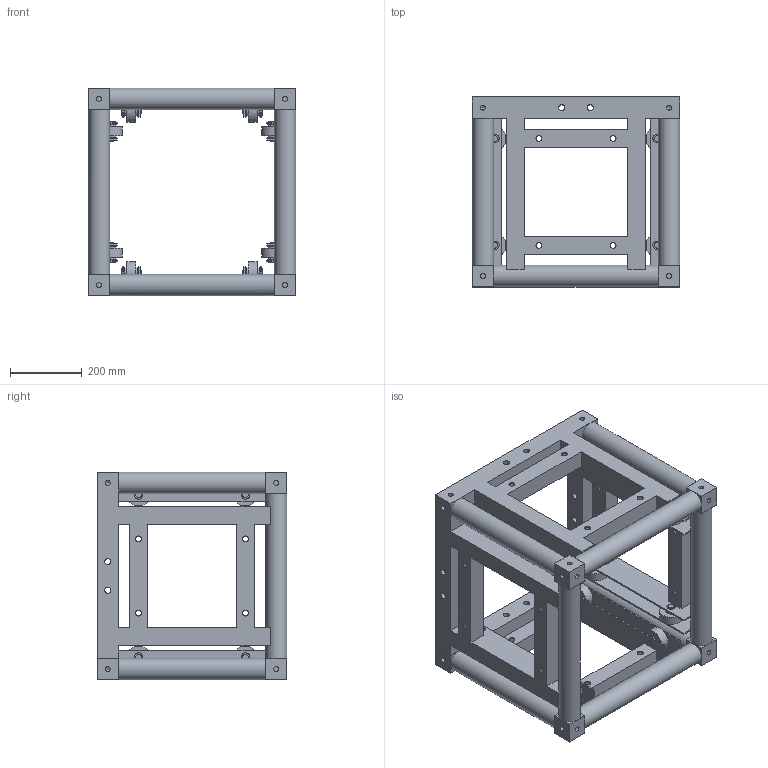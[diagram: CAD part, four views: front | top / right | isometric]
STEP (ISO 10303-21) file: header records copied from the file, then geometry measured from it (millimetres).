
FILE_DESCRIPTION(/* description */ (''),/* implementation_level */ '2;1');
FILE_NAME(/* name */ 'M:\Symbolen_NIEUW\STP\Sleeveblocks\111820019.stp',/* time_stamp */ '2015-06-01T14:46:50+02:00',/* author */ ('Stephan'),/* organization */ (''),/* preprocessor_version */ 'ST-DEVELOPER v15.6',/* originating_system */ 'Autodesk Inventor 2015',/* authorisation */ '');
FILE_SCHEMA (('AUTOMOTIVE_DESIGN { 1 0 10303 214 3 1 1 }'));
Length unit declared in the file: millimetre
Products named in the file (1): 160024347
Bounding box: 580 x 530 x 580.02 mm (x, y, z)
Volume: 23731399.9 mm3; surface area: 3755160.4 mm2
Topology: 1 solids, 1 shells, 926 faces, 2167 edges, 1433 vertices
Faces by surface type: plane 549, cylinder 353, cone 16, torus 8
Full cylindrical faces by diameter (mm): 13.835 x48, 16 x104, 16.5 x32, 17 x8, 19 x8, 19.4 x8, 20.75 x9, 23.691 x32, 30 x32, 34.5 x32, 60 x8, 65 x16
Entity records: 25024 total; most frequent: DIRECTION 4365, CARTESIAN_POINT 3842, ORIENTED_EDGE 3288, AXIS2_PLACEMENT_3D 1794, EDGE_LOOP 1667, EDGE_CURVE 1644, VERTEX_POINT 1271, STYLED_ITEM 927
